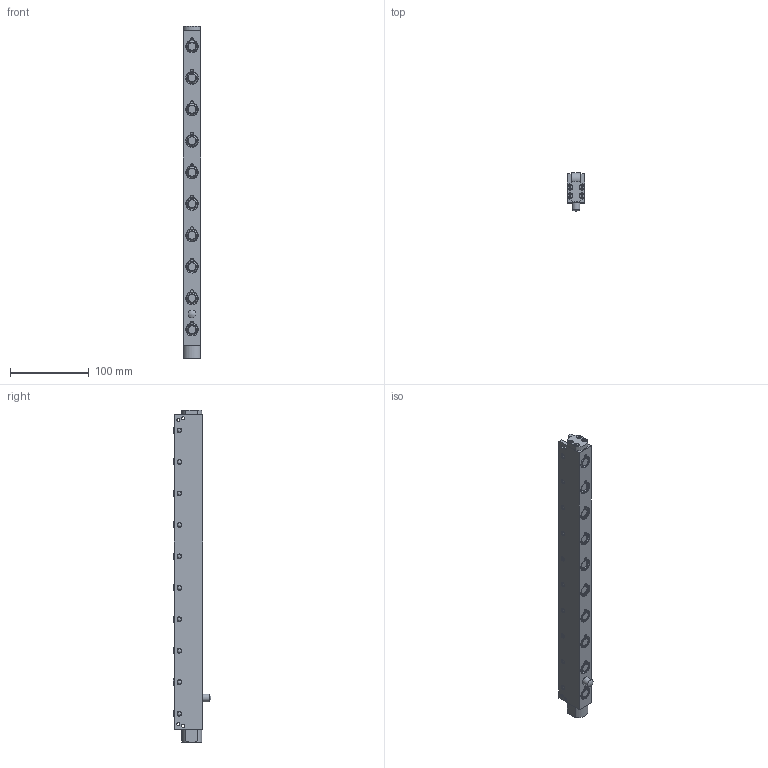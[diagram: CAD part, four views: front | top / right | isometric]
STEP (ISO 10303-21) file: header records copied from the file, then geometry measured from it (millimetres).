
FILE_DESCRIPTION(/* description */ (''),/* implementation_level */ '2;1');
FILE_NAME(/* name */ 'S:\EASCN Vault\Designs\Standard Part\DIE LIFTERS\EHR\EHR- 3D step\EHR22 - 3D step complete serie\EHR22-10.stp',/* time_stamp */ '2019-07-30T16:01:16+08:00',/* author */ ('yue.yang'),/* organization */ (''),/* preprocessor_version */ 'ST-DEVELOPER v17',/* originating_system */ 'Autodesk Inventor 2019',/* authorisation */ '');
FILE_SCHEMA (('AUTOMOTIVE_DESIGN { 1 0 10303 214 3 1 1 }'));
Length unit declared in the file: millimetre
Products named in the file (1): EHR22-10_Shrinkwrap_1
Bounding box: 21.8 x 48.05 x 422 mm (x, y, z)
Volume: 255510.1 mm3; surface area: 100260.4 mm2
Topology: 6 solids, 6 shells, 706 faces, 2024 edges, 1396 vertices
Faces by surface type: cylinder 232, plane 215, cone 128, torus 110, sphere 21
Full cylindrical faces by diameter (mm): 3 x9, 3.2 x8, 4 x8, 5 x40, 6 x19, 8.566 x1, 10 x3, 11 x10, 12.5 x20, 13.4 x10, 13.8 x10, 15.95 x20, 16 x30
Entity records: 25790 total; most frequent: CARTESIAN_POINT 5635, DIRECTION 4435, ORIENTED_EDGE 4020, EDGE_CURVE 2010, AXIS2_PLACEMENT_3D 1946, VERTEX_POINT 1400, CIRCLE 1239, EDGE_LOOP 856
